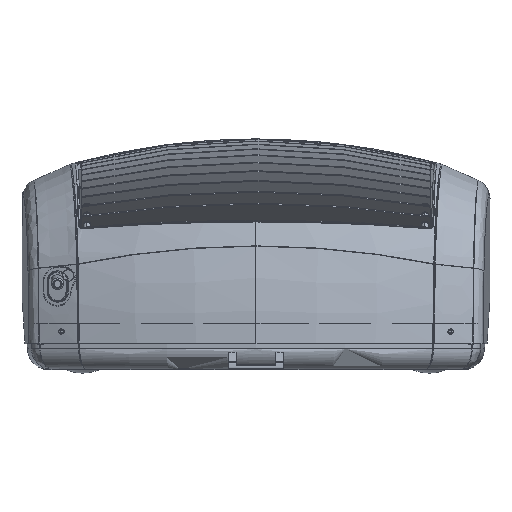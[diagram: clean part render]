
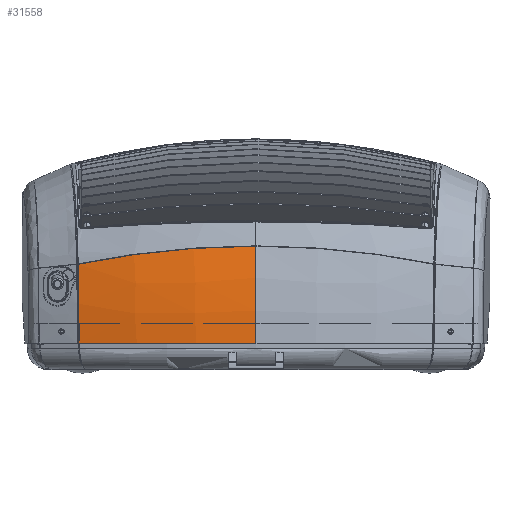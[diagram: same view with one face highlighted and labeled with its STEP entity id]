
A CAD part, front view. The second image highlights one B-rep face of the part: STEP entity #31558.
In plain terms, the highlighted free-form (B-spline) face has degree [3, 3] with [6, 4] control points.
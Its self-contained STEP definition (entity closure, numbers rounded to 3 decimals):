
#29616 = VERTEX_POINT('',#29617);
#29617 = CARTESIAN_POINT('',(-102.762,-204.689,
    45.976));
#29771 = EDGE_CURVE('',#29772,#29616,#29774,.T.);
#29772 = VERTEX_POINT('',#29773);
#29773 = CARTESIAN_POINT('',(0.,-215.994,56.418));
#29774 = B_SPLINE_CURVE_WITH_KNOTS('',3,(#29775,#29776,#29777,#29778,
    #29779,#29780,#29781),.UNSPECIFIED.,.F.,.F.,(4,1,1,1,4),(0.,
    0.296,0.593,0.889,1.),.UNSPECIFIED.);
#29775 = CARTESIAN_POINT('',(0.,-215.994,56.418));
#29776 = CARTESIAN_POINT('',(-10.993,-215.994,
    56.418));
#29777 = CARTESIAN_POINT('',(-32.51,-215.359,
    55.699));
#29778 = CARTESIAN_POINT('',(-63.181,-212.471,
    52.794));
#29779 = CARTESIAN_POINT('',(-86.301,-208.54,
    49.189));
#29780 = CARTESIAN_POINT('',(-99.261,-205.554,
    46.695));
#29781 = CARTESIAN_POINT('',(-102.762,-204.689,
    45.976));
#31497 = VERTEX_POINT('',#31498);
#31498 = CARTESIAN_POINT('',(-102.314,-210.311,
    0.001));
#31505 = EDGE_CURVE('',#29616,#31497,#31506,.T.);
#31506 = B_SPLINE_CURVE_WITH_KNOTS('',3,(#31507,#31508,#31509,#31510,
    #31511,#31512,#31513,#31514),.UNSPECIFIED.,.F.,.F.,(4,1,1,1,1,4),(0.
    ,0.2,0.4,0.6,0.8,1.),.QUASI_UNIFORM_KNOTS.);
#31507 = CARTESIAN_POINT('',(-102.762,-204.689,
    45.976));
#31508 = CARTESIAN_POINT('',(-102.725,-205.233,
    43.561));
#31509 = CARTESIAN_POINT('',(-102.647,-206.327,
    38.361));
#31510 = CARTESIAN_POINT('',(-102.523,-207.907,
    29.158));
#31511 = CARTESIAN_POINT('',(-102.419,-209.166,
    19.334));
#31512 = CARTESIAN_POINT('',(-102.346,-209.998,
    9.33));
#31513 = CARTESIAN_POINT('',(-102.321,-210.248,
    3.069));
#31514 = CARTESIAN_POINT('',(-102.314,-210.311,
    0.001));
#31558 = ADVANCED_FACE('',(#31559),#31581,.F.);
#31559 = FACE_BOUND('',#31560,.F.);
#31560 = EDGE_LOOP('',(#31561,#31562,#31563,#31574));
#31561 = ORIENTED_EDGE('',*,*,#31505,.F.);
#31562 = ORIENTED_EDGE('',*,*,#29771,.F.);
#31563 = ORIENTED_EDGE('',*,*,#31564,.T.);
#31564 = EDGE_CURVE('',#29772,#31565,#31567,.T.);
#31565 = VERTEX_POINT('',#31566);
#31566 = CARTESIAN_POINT('',(0.,-225.6,0.));
#31567 = B_SPLINE_CURVE_WITH_KNOTS('',3,(#31568,#31569,#31570,#31571,
    #31572,#31573),.UNSPECIFIED.,.F.,.F.,(4,1,1,4),(0.,0.333,
    0.667,1.),.UNSPECIFIED.);
#31568 = CARTESIAN_POINT('',(0.,-215.994,56.418));
#31569 = CARTESIAN_POINT('',(0.,-218.,50.361));
#31570 = CARTESIAN_POINT('',(0.,-221.403,38.044));
#31571 = CARTESIAN_POINT('',(0.,-224.624,19.122));
#31572 = CARTESIAN_POINT('',(0.,-225.489,6.376));
#31573 = CARTESIAN_POINT('',(0.,-225.6,0.));
#31574 = ORIENTED_EDGE('',*,*,#31575,.T.);
#31575 = EDGE_CURVE('',#31565,#31497,#31576,.T.);
#31576 = CIRCLE('',#31577,350.);
#31577 = AXIS2_PLACEMENT_3D('',#31578,#31579,#31580);
#31578 = CARTESIAN_POINT('',(0.,124.4,0.));
#31579 = DIRECTION('',(0.,0.,-1.));
#31580 = DIRECTION('',(0.,-1.,0.));
#31581 = B_SPLINE_SURFACE_WITH_KNOTS('',3,3,(
    (#31582,#31583,#31584,#31585)
    ,(#31586,#31587,#31588,#31589)
    ,(#31590,#31591,#31592,#31593)
    ,(#31594,#31595,#31596,#31597)
    ,(#31598,#31599,#31600,#31601)
    ,(#31602,#31603,#31604,#31605
  )),.UNSPECIFIED.,.F.,.F.,.F.,(4,1,1,4),(4,4),(0.593,0.75,
    0.875,1.008),(-0.006,0.308),
  .UNSPECIFIED.);
#31582 = CARTESIAN_POINT('',(2.058,-215.527,
    57.797));
#31583 = CARTESIAN_POINT('',(-33.475,-216.044,
    56.788));
#31584 = CARTESIAN_POINT('',(-69.222,-211.854,
    56.2));
#31585 = CARTESIAN_POINT('',(-103.693,-202.108,
    55.543));
#31586 = CARTESIAN_POINT('',(2.073,-217.966,
    50.615));
#31587 = CARTESIAN_POINT('',(-33.713,-218.412,
    49.717));
#31588 = CARTESIAN_POINT('',(-69.666,-213.866,
    49.177));
#31589 = CARTESIAN_POINT('',(-104.227,-203.791,
    48.556));
#31590 = CARTESIAN_POINT('',(2.094,-221.571,
    37.468));
#31591 = CARTESIAN_POINT('',(-34.066,-221.919,
    36.764));
#31592 = CARTESIAN_POINT('',(-70.324,-216.847,
    36.365));
#31593 = CARTESIAN_POINT('',(-105.018,-206.285,
    35.86));
#31594 = CARTESIAN_POINT('',(2.114,-224.766,
    17.683));
#31595 = CARTESIAN_POINT('',(-34.381,-225.015,
    17.308));
#31596 = CARTESIAN_POINT('',(-70.912,-219.513,
    17.151));
#31597 = CARTESIAN_POINT('',(-105.731,-208.531,
    16.903));
#31598 = CARTESIAN_POINT('',(2.118,-225.537,
    5.256));
#31599 = CARTESIAN_POINT('',(-34.457,-225.76,
    5.133));
#31600 = CARTESIAN_POINT('',(-71.059,-220.187,
    5.099));
#31601 = CARTESIAN_POINT('',(-105.917,-209.115,
    5.027));
#31602 = CARTESIAN_POINT('',(2.119,-225.61,
    -1.155));
#31603 = CARTESIAN_POINT('',(-34.464,-225.831,
    -1.128));
#31604 = CARTESIAN_POINT('',(-71.076,-220.273,
    -1.121));
#31605 = CARTESIAN_POINT('',(-105.944,-209.2,
    -1.105));
